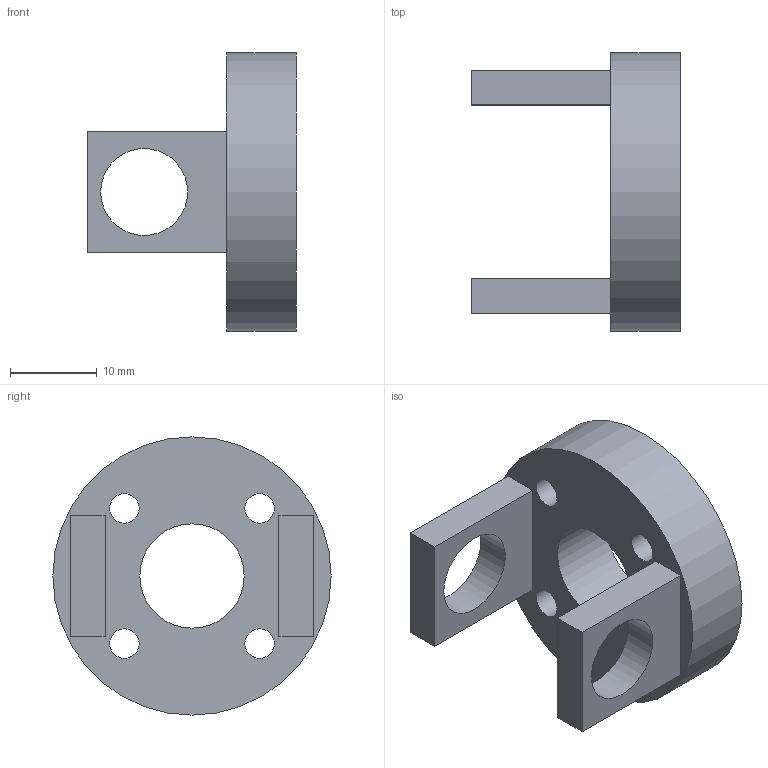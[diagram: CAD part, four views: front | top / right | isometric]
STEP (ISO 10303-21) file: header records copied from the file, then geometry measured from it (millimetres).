
FILE_DESCRIPTION(('Open CASCADE Model'),'2;1');
FILE_NAME('Open CASCADE Shape Model','2026-10-25T05:18:01',('Author'),( 'Open CASCADE'),'Open CASCADE STEP processor 7.9','Open CASCADE 7.9' ,'Unknown');
FILE_SCHEMA(('AUTOMOTIVE_DESIGN { 1 0 10303 214 1 1 1 1 }'));
Length unit declared in the file: millimetre
Products named in the file (1): Open CASCADE STEP translator 7.9 30
Bounding box: 24 x 32 x 32 mm (x, y, z)
Volume: 6402.4 mm3; surface area: 3846.5 mm2
Topology: 1 solids, 1 shells, 20 faces, 48 edges, 32 vertices
Faces by surface type: plane 12, cylinder 8
Full cylindrical faces by diameter (mm): 3.4 x4, 10 x2, 12 x1, 32 x1
Entity records: 1250 total; most frequent: DIRECTION 202, CARTESIAN_POINT 197, LINE 112, VECTOR 112, ORIENTED_EDGE 96, PCURVE 96, DEFINITIONAL_REPRESENTATION 96, EDGE_CURVE 48
